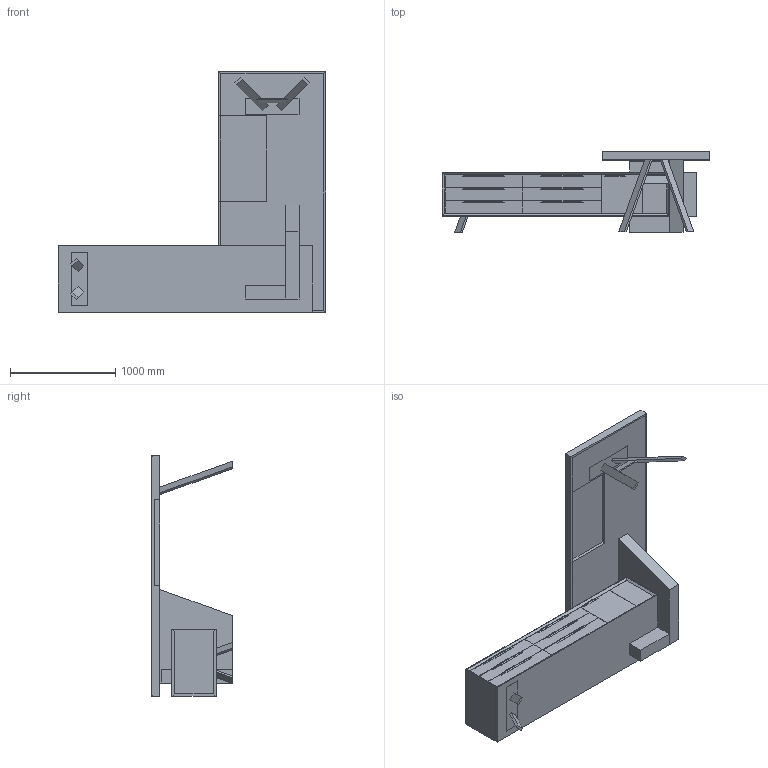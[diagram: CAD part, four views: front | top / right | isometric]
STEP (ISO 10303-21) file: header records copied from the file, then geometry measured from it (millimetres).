
FILE_DESCRIPTION(/* description */ ('','CAx-IF Rec.Pracs.---Representation and Presentation of Product Manufacturing Information (PMI)---4.0---2014-10-13'),/* implementation_level */ '2;1');
FILE_NAME(/* name */ 'DATUM^PO1.stp',/* time_stamp */ '2024-12-05T18:36:36-05:00',/* author */ ('mbowman'),/* organization */ (''),/* preprocessor_version */ 'ST-DEVELOPER v19.2',/* originating_system */ 'Autodesk Inventor 2023',/* authorisation */ '');
FILE_SCHEMA (('AP242_MANAGED_MODEL_BASED_3D_ENGINEERING_MIM_LF { 1 0 10303 442 1 1 4 }'));
Length unit declared in the file: inch
Products named in the file (21): DATUM^OFFICE 1_L-SHAPE-FULL ASSEMBLY; DATUM^OFFICE 1_DESK-SOLID ASSEMBLY; DATUM^OFFICE 1_DESK-PARTS SOLID; DATUM^OFFICE 1_DESK-LEG ASSEMBLY; DATUM^OFFICE 1_DESK-WOOD LEG; DATUM^OFFICE 1_DESK-METAL LEG TOP PLATE; DATUM^OFFICE 1_DESK-METAL LEG CROSS BAR; DATUM^OFFICES_CENTER DRAWER-32in DRAWER FRT; DATUM^OFFICE 1_CREDENZA-SOLID ASSEMBLY; DATUM^OFFICE 4_SIDE CREDENZA-PARTS SOLID; DATUM^OFFICE 1_CREDENZA-LEG ASSEMBLY; DATUM^OFFICE 1_CREDENZA-METAL LEG; DATUM^OFFICE 1_CREDENZA-METAL LEG TOP PLATE; 2024_04_02_19_08_24_0856; 2024_04_02_19_08_24_0950; 2024_04_02_19_08_24_0934; 2024_04_02_19_06_09_0566; 2024_04_02_19_06_09_0661; 2024_04_02_19_06_09_0645; DATUM^OFFICE 1_DESK-RISER; DATUM^OFFICE 1_DESK-BOTTOM RISER
Assembly tree (27 placements, depth 4):
  DATUM^OFFICE 1_L-SHAPE-FULL ASSEMBLY
    DATUM^OFFICE 1_DESK-SOLID ASSEMBLY
      DATUM^OFFICE 1_DESK-PARTS SOLID
      DATUM^OFFICE 1_DESK-LEG ASSEMBLY
        DATUM^OFFICE 1_DESK-WOOD LEG  x2
        DATUM^OFFICE 1_DESK-METAL LEG TOP PLATE
        DATUM^OFFICE 1_DESK-METAL LEG CROSS BAR
      DATUM^OFFICES_CENTER DRAWER-32in DRAWER FRT
    DATUM^OFFICE 1_CREDENZA-SOLID ASSEMBLY
      DATUM^OFFICE 4_SIDE CREDENZA-PARTS SOLID
      DATUM^OFFICE 1_CREDENZA-LEG ASSEMBLY
        DATUM^OFFICE 1_CREDENZA-METAL LEG  x2
        DATUM^OFFICE 1_CREDENZA-METAL LEG TOP PLATE
      2024_04_02_19_06_09_0566  x6
        2024_04_02_19_06_09_0661
        2024_04_02_19_06_09_0645
      2024_04_02_19_08_24_0856
        2024_04_02_19_08_24_0950
        2024_04_02_19_08_24_0934
    DATUM^OFFICE 1_DESK-RISER
    DATUM^OFFICE 1_DESK-BOTTOM RISER
Bounding box: 2540 x 762 x 2286 mm (x, y, z)
Volume: 307612557.1 mm3; surface area: 25179528.8 mm2
Topology: 48 solids, 48 shells, 1964 faces, 4051 edges, 2239 vertices
Faces by surface type: cone 1540, plane 389, cylinder 35
Full cylindrical faces by diameter (mm): 0 x7, 3.5 x28
Entity records: 21468 total; most frequent: CARTESIAN_POINT 3878, DIRECTION 3648, ORIENTED_EDGE 2928, EDGE_CURVE 1464, AXIS2_PLACEMENT_3D 1322, LINE 1004, VECTOR 1004, VERTEX_POINT 848
